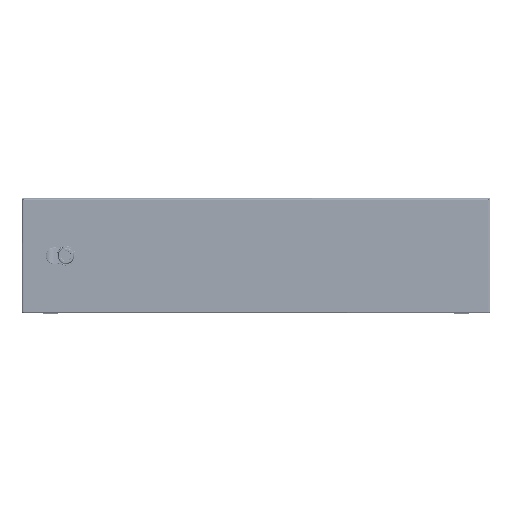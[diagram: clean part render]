
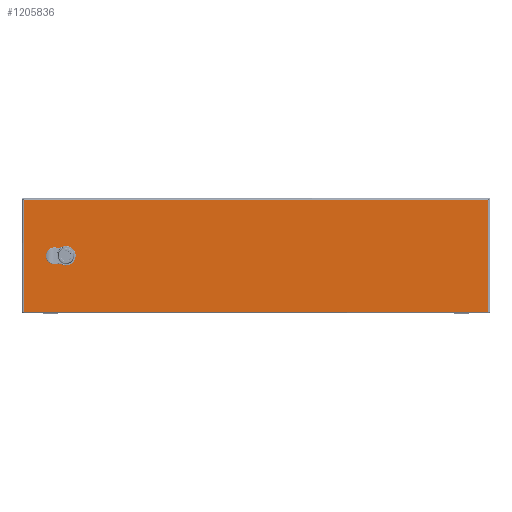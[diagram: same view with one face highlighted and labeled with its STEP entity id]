
A CAD part, top view. The second image highlights one B-rep face of the part: STEP entity #1205836.
In plain terms, the highlighted planar face has unit normal (0, 0, 1).
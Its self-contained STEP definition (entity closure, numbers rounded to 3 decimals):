
#1197421=CARTESIAN_POINT(' ',(-437.315,154.96,78.753));
#1197422=VERTEX_POINT(' ',#1197421);
#1198891=CARTESIAN_POINT(' ',(351.085,154.96,78.753));
#1198892=VERTEX_POINT(' ',#1198891);
#1199806=CARTESIAN_POINT(' ',(351.085,154.96,78.753));
#1199811=DIRECTION(' ',(-1.,0.,0.));
#1199816=VECTOR(' ',#1199811,1.);
#1199821=LINE('',#1199806,#1199816);
#1199826=EDGE_CURVE(' ',#1198892,#1197422,#1199821,.T.);
#1203726=CARTESIAN_POINT(' ',(351.085,-34.44,78.753));
#1203727=VERTEX_POINT(' ',#1203726);
#1205276=CARTESIAN_POINT(' ',(-437.315,-34.44,78.753));
#1205277=VERTEX_POINT(' ',#1205276);
#1205706=DIRECTION(' ',(-0.,-0.,1.));
#1205711=CARTESIAN_POINT(' ',(351.085,-34.44,78.753));
#1205716=DIRECTION(' ',(0.,1.,0.));
#1205721=AXIS2_PLACEMENT_3D(' ',#1205711,#1205706,#1205716);
#1205726=PLANE('NONE',#1205721);
#1205731=CARTESIAN_POINT(' ',(-437.315,-34.44,78.753));
#1205736=DIRECTION(' ',(1.,0.,0.));
#1205741=VECTOR(' ',#1205736,1.);
#1205746=LINE('',#1205731,#1205741);
#1205751=EDGE_CURVE(' ',#1205277,#1203727,#1205746,.T.);
#1205756=ORIENTED_EDGE(' ',*,*,#1205751,.T.);
#1205761=CARTESIAN_POINT(' ',(351.085,154.96,78.753));
#1205766=DIRECTION(' ',(0.,-1.,0.));
#1205771=VECTOR(' ',#1205766,1.);
#1205776=LINE('',#1205761,#1205771);
#1205781=EDGE_CURVE(' ',#1198892,#1203727,#1205776,.T.);
#1205786=ORIENTED_EDGE(' ',*,*,#1205781,.F.);
#1205791=ORIENTED_EDGE(' ',*,*,#1199826,.T.);
#1205796=CARTESIAN_POINT(' ',(-437.315,154.96,78.753));
#1205801=DIRECTION(' ',(0.,-1.,0.));
#1205806=VECTOR(' ',#1205801,1.);
#1205811=LINE('',#1205796,#1205806);
#1205816=EDGE_CURVE(' ',#1197422,#1205277,#1205811,.T.);
#1205821=ORIENTED_EDGE(' ',*,*,#1205816,.T.);
#1205826=EDGE_LOOP(' ',(#1205756,#1205786,#1205791,#1205821));
#1205831=FACE_OUTER_BOUND(' ',#1205826,.T.);
#1205836=ADVANCED_FACE('NONE',(#1205831),#1205726,.T.);
